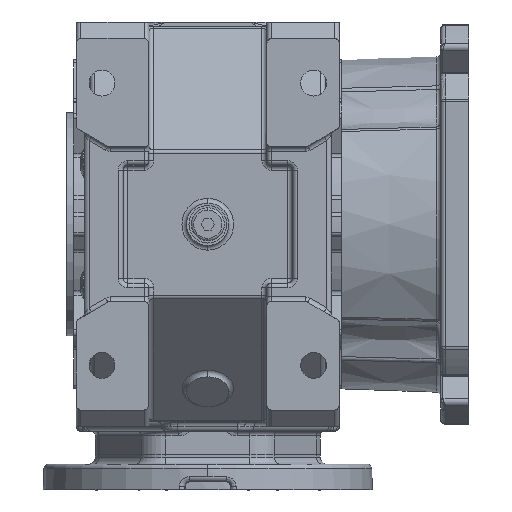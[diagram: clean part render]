
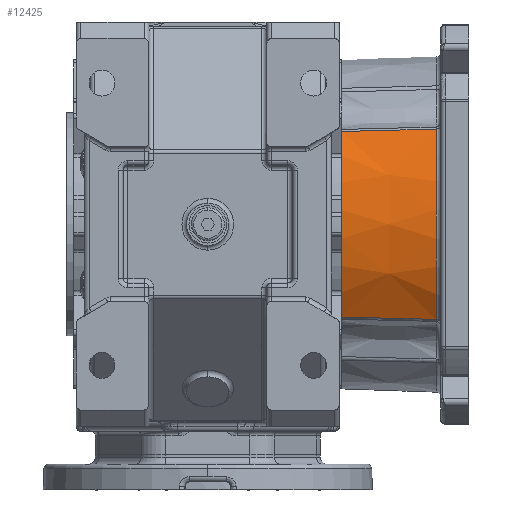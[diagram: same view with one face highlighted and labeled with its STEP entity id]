
A CAD part, front view. The second image highlights one B-rep face of the part: STEP entity #12425.
In plain terms, the highlighted conical face has half-angle 2 degrees and reference radius 71.467 mm.
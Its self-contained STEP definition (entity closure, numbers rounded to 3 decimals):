
#12425 = ADVANCED_FACE ( 'NONE', ( #90961 ), #90960, .T. ) ;
#12434 = EDGE_LOOP ( 'NONE', ( #12439, #12461, #12474, #12564 ) ) ;
#12439 = ORIENTED_EDGE ( 'NONE', *, *, #12443, .T. ) ;
#12443 = EDGE_CURVE ( 'NONE', #12449, #12452, #90943, .T. ) ;
#12449 = VERTEX_POINT ( 'NONE', #90936 ) ;
#12452 = VERTEX_POINT ( 'NONE', #90934 ) ;
#12461 = ORIENTED_EDGE ( 'NONE', *, *, #12463, .T. ) ;
#12463 = EDGE_CURVE ( 'NONE', #12452, #12465, #91039, .T. ) ;
#12465 = VERTEX_POINT ( 'NONE', #91037 ) ;
#12474 = ORIENTED_EDGE ( 'NONE', *, *, #12478, .F. ) ;
#12478 = EDGE_CURVE ( 'NONE', #12481, #12465, #91022, .T. ) ;
#12481 = VERTEX_POINT ( 'NONE', #91013 ) ;
#12564 = ORIENTED_EDGE ( 'NONE', *, *, #12568, .T. ) ;
#12568 = EDGE_CURVE ( 'NONE', #12481, #12449, #91266, .T. ) ;
#90934 = CARTESIAN_POINT ( 'NONE',  ( 40.454, -58.833, -40.07 ) ) ;
#90936 = CARTESIAN_POINT ( 'NONE',  ( -40.454, -58.833, -40.07 ) ) ;
#90939 = DIRECTION ( 'NONE',  ( -1., 0., 0. ) ) ;
#90940 = DIRECTION ( 'NONE',  ( 0., 0., 1. ) ) ;
#90941 = CARTESIAN_POINT ( 'NONE',  ( 0., 0., -40.07 ) ) ;
#90942 = AXIS2_PLACEMENT_3D ( 'NONE', #90941, #90940, #90939 ) ;
#90943 = CIRCLE ( 'NONE', #90942, 71.399 ) ;
#90949 = DIRECTION ( 'NONE',  ( -1., 0., 0. ) ) ;
#90951 = DIRECTION ( 'NONE',  ( 0., 0., -1. ) ) ;
#90952 = CARTESIAN_POINT ( 'NONE',  ( 0., 0., -42. ) ) ;
#90954 = AXIS2_PLACEMENT_3D ( 'NONE', #90952, #90951, #90949 ) ;
#90960 = CONICAL_SURFACE ( 'NONE', #90954, 71.467, 0.035 ) ;
#90961 = FACE_OUTER_BOUND ( 'NONE', #12434, .T. ) ;
#91013 = CARTESIAN_POINT ( 'NONE',  ( -39.461, -57.817, 0. ) ) ;
#91015 = DIRECTION ( 'NONE',  ( 1., 0., 0. ) ) ;
#91017 = DIRECTION ( 'NONE',  ( 0., 0., 1. ) ) ;
#91019 = CARTESIAN_POINT ( 'NONE',  ( 0., 0., 0. ) ) ;
#91021 = AXIS2_PLACEMENT_3D ( 'NONE', #91019, #91017, #91015 ) ;
#91022 = CIRCLE ( 'NONE', #91021, 70. ) ;
#91031 = CARTESIAN_POINT ( 'NONE',  ( 39.461, -57.817, 0. ) ) ;
#91032 = CARTESIAN_POINT ( 'NONE',  ( 39.792, -58.156, -13.357 ) ) ;
#91033 = CARTESIAN_POINT ( 'NONE',  ( 40.123, -58.494, -26.713 ) ) ;
#91034 = CARTESIAN_POINT ( 'NONE',  ( 40.454, -58.833, -40.07 ) ) ;
#91037 = CARTESIAN_POINT ( 'NONE',  ( 39.461, -57.817, 0. ) ) ;
#91039 = B_SPLINE_CURVE_WITH_KNOTS ( 'NONE', 3,
 ( #91034, #91033, #91032, #91031 ),
 .UNSPECIFIED., .F., .F.,
 ( 4, 4 ),
 ( 0., 0.04 ),
 .UNSPECIFIED. ) ;
#91253 = CARTESIAN_POINT ( 'NONE',  ( -40.454, -58.833, -40.07 ) ) ;
#91255 = CARTESIAN_POINT ( 'NONE',  ( -40.123, -58.494, -26.713 ) ) ;
#91257 = CARTESIAN_POINT ( 'NONE',  ( -39.792, -58.156, -13.357 ) ) ;
#91259 = CARTESIAN_POINT ( 'NONE',  ( -39.461, -57.817, 0. ) ) ;
#91266 = B_SPLINE_CURVE_WITH_KNOTS ( 'NONE', 3,
 ( #91259, #91257, #91255, #91253 ),
 .UNSPECIFIED., .F., .F.,
 ( 4, 4 ),
 ( 0., 0.04 ),
 .UNSPECIFIED. ) ;
